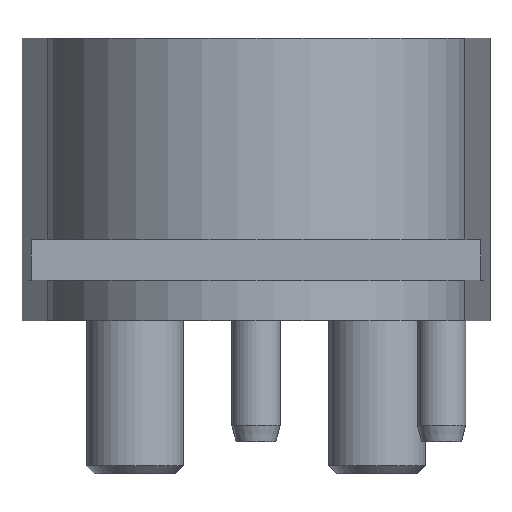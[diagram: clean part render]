
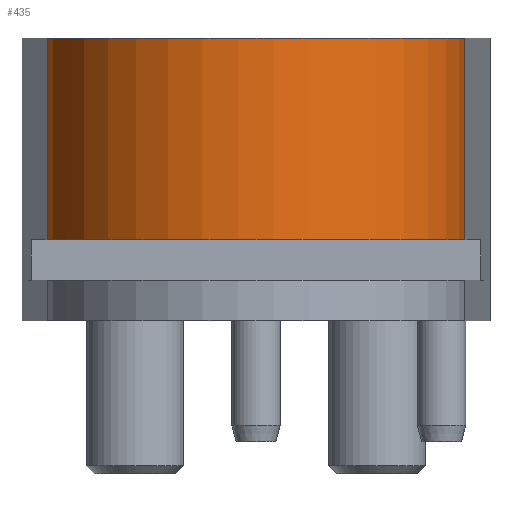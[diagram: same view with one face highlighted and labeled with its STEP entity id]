
A CAD part, left-side view. The second image highlights one B-rep face of the part: STEP entity #435.
In plain terms, the highlighted cylindrical face has radius 26 mm (diameter 52 mm), a partial arc.
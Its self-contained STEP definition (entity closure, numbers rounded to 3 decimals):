
#122=CYLINDRICAL_SURFACE('',#2674,26.);
#273=CIRCLE('',#2672,26.);
#274=CIRCLE('',#2673,26.);
#435=ADVANCED_FACE('',(#655),#122,.T.);
#655=FACE_OUTER_BOUND('',#795,.T.);
#795=EDGE_LOOP('',(#1093,#1094,#1095,#1096));
#1093=ORIENTED_EDGE('',*,*,#1950,.F.);
#1094=ORIENTED_EDGE('',*,*,#1951,.T.);
#1095=ORIENTED_EDGE('',*,*,#1952,.F.);
#1096=ORIENTED_EDGE('',*,*,#1953,.F.);
#1697=VERTEX_POINT('',#3889);
#1698=VERTEX_POINT('',#3890);
#1699=VERTEX_POINT('',#3892);
#1700=VERTEX_POINT('',#3894);
#1950=EDGE_CURVE('',#1697,#1698,#273,.T.);
#1951=EDGE_CURVE('',#1697,#1699,#2280,.T.);
#1952=EDGE_CURVE('',#1700,#1699,#274,.T.);
#1953=EDGE_CURVE('',#1698,#1700,#2281,.T.);
#2280=LINE('',#3891,#2478);
#2281=LINE('',#3895,#2479);
#2478=VECTOR('',#3092,1.);
#2479=VECTOR('',#3095,1.);
#2672=AXIS2_PLACEMENT_3D('',#3888,#3090,#3091);
#2673=AXIS2_PLACEMENT_3D('',#3893,#3093,#3094);
#2674=AXIS2_PLACEMENT_3D('',#3896,#3096,#3097);
#3090=DIRECTION('',(0.,0.,-1.));
#3091=DIRECTION('',(0.,1.,0.));
#3092=DIRECTION('',(0.,0.,1.));
#3093=DIRECTION('',(0.,0.,1.));
#3094=DIRECTION('',(0.,1.,0.));
#3095=DIRECTION('',(0.,0.,1.));
#3096=DIRECTION('',(0.,0.,1.));
#3097=DIRECTION('',(-1.,0.,0.));
#3888=CARTESIAN_POINT('',(0.,0.,10.));
#3889=CARTESIAN_POINT('',(-2.342,-25.894,10.));
#3890=CARTESIAN_POINT('',(-2.342,25.894,10.));
#3891=CARTESIAN_POINT('',(-2.342,-25.894,5.));
#3892=CARTESIAN_POINT('',(-2.342,-25.894,35.));
#3893=CARTESIAN_POINT('',(0.,0.,35.));
#3894=CARTESIAN_POINT('',(-2.342,25.894,35.));
#3895=CARTESIAN_POINT('',(-2.342,25.894,5.));
#3896=CARTESIAN_POINT('',(0.,0.,0.));
